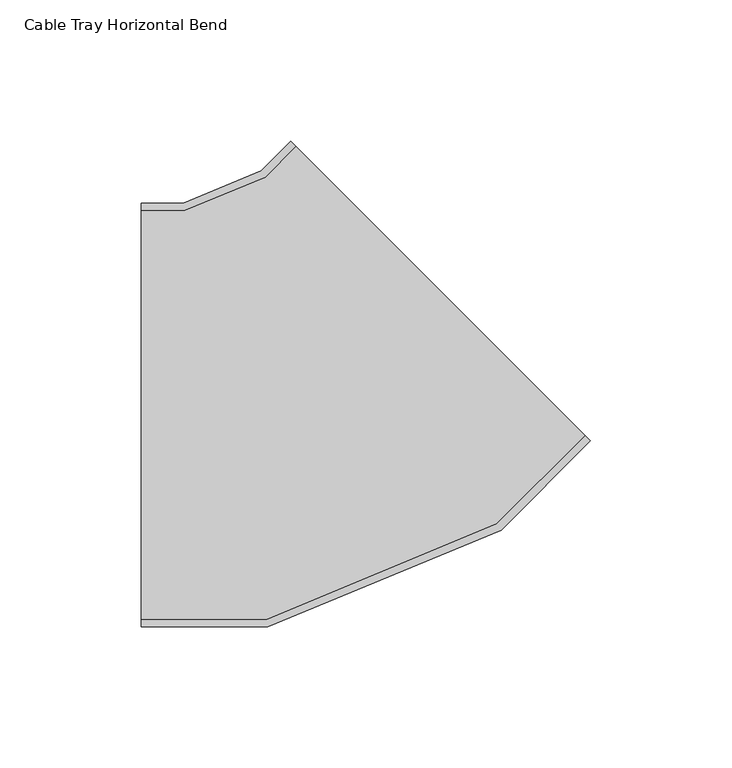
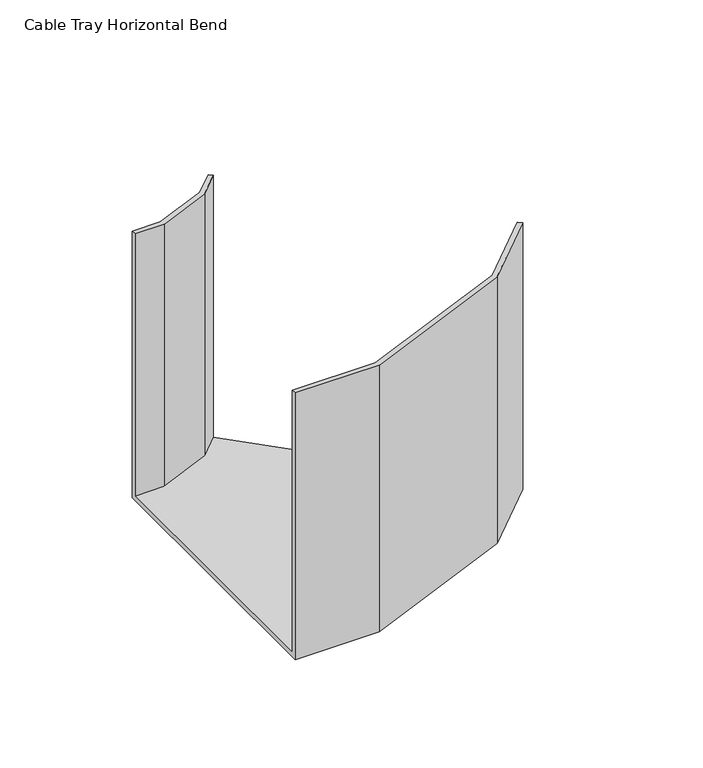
"""IFC4 building model written with IfcOpenShell, lengths in millimetres: cable carrier fitting geometry, Cable Tray Horizontal Bend : ELEC_ELV_TKG_N2402."""

from ifc_helpers import new_model, si_unit, origin, place, context, project, spatial, faceted_brep, source, transform, mapped, element, save


def cable_tray_horizontal_bend_47e02f7b(model_context):
    return source(origin(), model_context, "Body", "Brep", [
        faceted_brep([(-62.1323928, -75.0, -75.0), (-62.1323928, -75.0, 75.0), (-62.1323928, -72.46, 75.0), (-62.1323928, -72.46, -72.46), (-62.1323928, 72.46, -72.46), (-62.1323928, 72.46, 75.0), (-62.1323928, 75.0, 75.0), (-62.1323928, 75.0, -75.0), (96.967282, -9.0983768, -75.0), (-9.0991679, 96.9672077, -75.0), (-9.0991679, 96.9672077, 75.0), (-7.3031093, 95.1711638, 75.0), (-7.3031093, 95.1711638, -72.46), (95.1712234, -7.3023329, -72.46), (95.1712234, -7.3023329, 75.0), (96.967282, -9.0983768, 75.0), (-17.3768716, -75.0, -75.0), (-17.3768716, -75.0, 75.0), (65.3204785, -40.7454384, 75.0), (63.8816772, -38.5921344, 75.0), (-17.8821117, -72.46, 75.0), (-17.8821117, -72.46, -72.46), (63.8816772, -38.5921344, -72.46), (-18.209301, 84.2648831, -72.46), (-46.7086456, 72.46, -72.46), (-46.7086456, 72.46, 75.0), (-18.209301, 84.2648831, 75.0), (-19.6481023, 86.4181872, 75.0), (-47.2138857, 75.0, 75.0), (-47.2138857, 75.0, -75.0), (-19.6481023, 86.4181872, -75.0), (65.3204785, -40.7454384, -75.0)], [[[0, 1, 2, 3, 4, 5, 6, 7]], [[8, 9, 10, 11, 12, 13, 14, 15]], [[1, 0, 16, 17]], [[2, 1, 17, 18, 15, 14, 19, 20]], [[3, 2, 20, 21]], [[4, 3, 21, 22, 13, 12, 23, 24]], [[5, 4, 24, 25]], [[6, 5, 25, 26, 11, 10, 27, 28]], [[7, 6, 28, 29]], [[0, 7, 29, 30, 9, 8, 31, 16]], [[17, 16, 31, 18]], [[21, 20, 19, 22]], [[25, 24, 23, 26]], [[29, 28, 27, 30]], [[18, 31, 8, 15]], [[22, 19, 14, 13]], [[26, 23, 12, 11]], [[30, 27, 10, 9]]]),
    ])


if __name__ == "__main__":
    model = new_model("IFC4")
    model_context = context("Model", 3, world=origin())
    ifc_project = project(units=[si_unit("LENGTHUNIT", "METRE", prefix="MILLI")], contexts=[model_context])
    site = spatial("IfcSite", under=ifc_project)
    building = spatial("IfcBuilding", under=site)
    placement = place(None, origin())
    cable_tray_horizontal_bend_shape = cable_tray_horizontal_bend_47e02f7b(model_context)
    element("IfcCableCarrierFitting", 1, ObjectType="Cable Tray Horizontal Bend : ELEC_ELV_TKG_N2402", at=placement, inside=building, context=model_context, shape_type="MappedRepresentation", body=[
        mapped(cable_tray_horizontal_bend_shape, transform((0.0, 0.0, 0.0), x_axis=(1.0, 0.0, 0.0), y_axis=(0.0, 1.0, 0.0), z_axis=(0.0, 0.0, 1.0))),
    ])
    save(model, "model.ifc")
